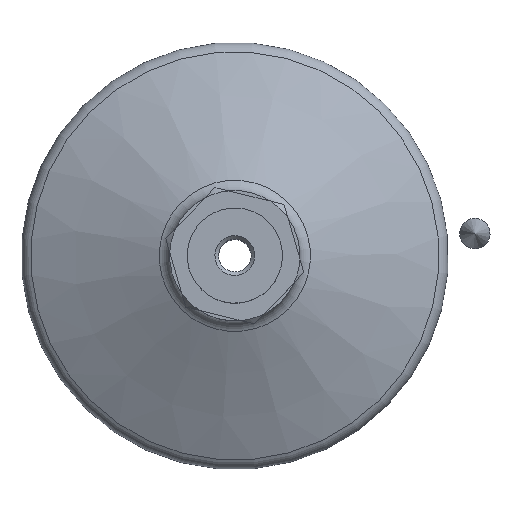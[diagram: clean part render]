
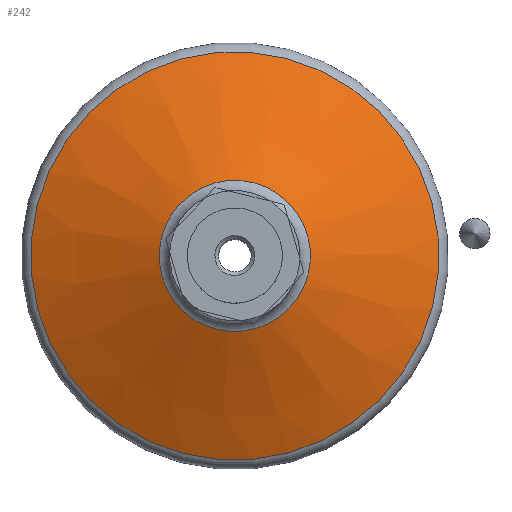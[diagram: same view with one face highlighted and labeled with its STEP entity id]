
A CAD part, top view. The second image highlights one B-rep face of the part: STEP entity #242.
In plain terms, the highlighted conical face has half-angle 64.982 degrees and reference radius 19.322 mm.
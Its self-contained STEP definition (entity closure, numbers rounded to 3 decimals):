
#242=ADVANCED_FACE('',(#488,#489),#490,.T.);
#488=FACE_BOUND('',#719,.T.);
#489=FACE_OUTER_BOUND('',#720,.T.);
#490=CONICAL_SURFACE('',#721,19.322,1.134);
#719=EDGE_LOOP('',(#1134));
#720=EDGE_LOOP('',(#1135));
#721=AXIS2_PLACEMENT_3D('',#1136,#1137,#1138);
#1134=ORIENTED_EDGE('',*,*,#1288,.T.);
#1135=ORIENTED_EDGE('',*,*,#1285,.F.);
#1136=CARTESIAN_POINT('',(0.0,0.,20.183));
#1137=DIRECTION('',(0.0,0.,-1.0));
#1138=DIRECTION('',(1.0,0.0,0.0));
#1285=EDGE_CURVE('',#1498,#1498,#1499,.T.);
#1288=EDGE_CURVE('',#1503,#1503,#1504,.T.);
#1498=VERTEX_POINT('',#1948);
#1499=CIRCLE('',#1949,28.202);
#1503=VERTEX_POINT('',#1953);
#1504=CIRCLE('',#1954,10.442);
#1948=CARTESIAN_POINT('',(0.0,28.202,16.039));
#1949=AXIS2_PLACEMENT_3D('',#2185,#2186,#2187);
#1953=CARTESIAN_POINT('',(0.0,10.442,24.327));
#1954=AXIS2_PLACEMENT_3D('',#2191,#2192,#2193);
#2185=CARTESIAN_POINT('',(0.0,0.,16.039));
#2186=DIRECTION('',(0.0,0.,-1.0));
#2187=DIRECTION('',(0.0,1.0,0.));
#2191=CARTESIAN_POINT('',(0.0,0.,24.327));
#2192=DIRECTION('',(0.0,0.,-1.0));
#2193=DIRECTION('',(0.0,1.0,0.));
